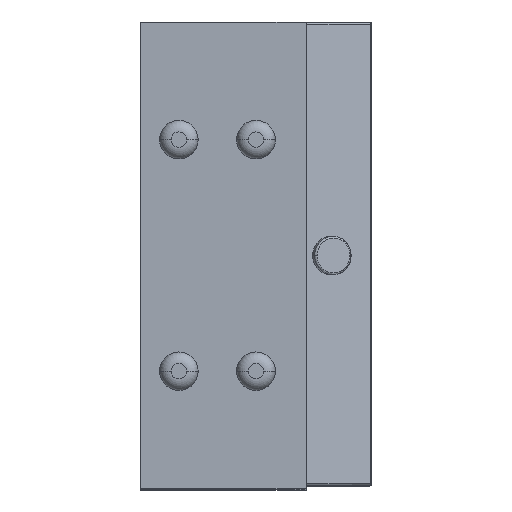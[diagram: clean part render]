
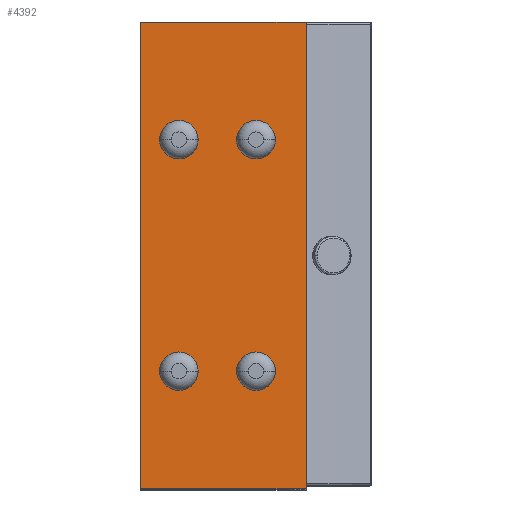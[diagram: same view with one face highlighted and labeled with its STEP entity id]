
A CAD part, top view. The second image highlights one B-rep face of the part: STEP entity #4392.
In plain terms, the highlighted planar face has unit normal (0, 0, 1).
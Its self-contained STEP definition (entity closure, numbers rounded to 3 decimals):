
#330 = VERTEX_POINT ( 'NONE', #13505 ) ;
#769 = VERTEX_POINT ( 'NONE', #14400 ) ;
#1227 = CARTESIAN_POINT ( 'NONE',  ( 5., -30., 77.5 ) ) ;
#1429 = EDGE_CURVE ( 'NONE', #24312, #14934, #27768, .T. ) ;
#1811 = VERTEX_POINT ( 'NONE', #33669 ) ;
#2116 = VERTEX_POINT ( 'NONE', #19441 ) ;
#2127 = LINE ( 'NONE', #22781, #17752 ) ;
#2188 = CARTESIAN_POINT ( 'NONE',  ( -15., 30., 77.5 ) ) ;
#2290 = VERTEX_POINT ( 'NONE', #14417 ) ;
#2324 = DIRECTION ( 'NONE',  ( 1., 0., 0. ) ) ;
#2940 = ORIENTED_EDGE ( 'NONE', *, *, #25139, .T. ) ;
#3398 = DIRECTION ( 'NONE',  ( 1., 0., 0. ) ) ;
#3588 = AXIS2_PLACEMENT_3D ( 'NONE', #34004, #20504, #12837 ) ;
#3596 = EDGE_LOOP ( 'NONE', ( #27484, #7817, #17566, #12763 ) ) ;
#3620 = CIRCLE ( 'NONE', #15371, 5. ) ;
#4392 = ADVANCED_FACE ( 'NONE', ( #24304, #6220, #20189, #27645, #33275 ), #24687, .T. ) ;
#4534 = CARTESIAN_POINT ( 'NONE',  ( -5., -30., 77.5 ) ) ;
#4631 = CARTESIAN_POINT ( 'NONE',  ( -20., 30., 77.5 ) ) ;
#5324 = CARTESIAN_POINT ( 'NONE',  ( -30., 60.5, 77.5 ) ) ;
#5463 = EDGE_CURVE ( 'NONE', #2116, #33609, #12341, .T. ) ;
#5643 = CARTESIAN_POINT ( 'NONE',  ( 13., -60.5, 77.5 ) ) ;
#6220 = FACE_BOUND ( 'NONE', #9408, .T. ) ;
#6770 = VECTOR ( 'NONE', #30182, 1000. ) ;
#7817 = ORIENTED_EDGE ( 'NONE', *, *, #32339, .F. ) ;
#7899 = ORIENTED_EDGE ( 'NONE', *, *, #28308, .T. ) ;
#8556 = CARTESIAN_POINT ( 'NONE',  ( -30., -60.5, 77.5 ) ) ;
#8615 = VECTOR ( 'NONE', #11586, 1000. ) ;
#9408 = EDGE_LOOP ( 'NONE', ( #29740, #26998 ) ) ;
#10359 = CARTESIAN_POINT ( 'NONE',  ( 0., 30., 77.5 ) ) ;
#10595 = AXIS2_PLACEMENT_3D ( 'NONE', #11240, #11687, #3398 ) ;
#11240 = CARTESIAN_POINT ( 'NONE',  ( -20., -30., 77.5 ) ) ;
#11586 = DIRECTION ( 'NONE',  ( 0., 1., 0. ) ) ;
#11600 = AXIS2_PLACEMENT_3D ( 'NONE', #23687, #26353, #13509 ) ;
#11687 = DIRECTION ( 'NONE',  ( 0., 0., -1. ) ) ;
#11842 = EDGE_LOOP ( 'NONE', ( #21414, #2940 ) ) ;
#11893 = CARTESIAN_POINT ( 'NONE',  ( -15., -30., 77.5 ) ) ;
#12341 = CIRCLE ( 'NONE', #29289, 5. ) ;
#12619 = EDGE_CURVE ( 'NONE', #769, #24000, #29398, .T. ) ;
#12763 = ORIENTED_EDGE ( 'NONE', *, *, #20199, .T. ) ;
#12837 = DIRECTION ( 'NONE',  ( 1., 0., 0. ) ) ;
#13505 = CARTESIAN_POINT ( 'NONE',  ( 5., 30., 77.5 ) ) ;
#13509 = DIRECTION ( 'NONE',  ( 1., 0., 0. ) ) ;
#13527 = VERTEX_POINT ( 'NONE', #5643 ) ;
#13668 = CARTESIAN_POINT ( 'NONE',  ( -20., -30., 77.5 ) ) ;
#14302 = AXIS2_PLACEMENT_3D ( 'NONE', #24921, #14497, #16777 ) ;
#14400 = CARTESIAN_POINT ( 'NONE',  ( -30., -60.5, 77.5 ) ) ;
#14417 = CARTESIAN_POINT ( 'NONE',  ( -5., 30., 77.5 ) ) ;
#14497 = DIRECTION ( 'NONE',  ( 0., 0., 1. ) ) ;
#14551 = VERTEX_POINT ( 'NONE', #4534 ) ;
#14934 = VERTEX_POINT ( 'NONE', #2188 ) ;
#15171 = CARTESIAN_POINT ( 'NONE',  ( -25., 30., 77.5 ) ) ;
#15371 = AXIS2_PLACEMENT_3D ( 'NONE', #23068, #28259, #17789 ) ;
#15427 = DIRECTION ( 'NONE',  ( 0., 0., -1. ) ) ;
#15985 = CARTESIAN_POINT ( 'NONE',  ( 13., -60.5, 77.5 ) ) ;
#16044 = DIRECTION ( 'NONE',  ( 0., 0., -1. ) ) ;
#16777 = DIRECTION ( 'NONE',  ( 1., 0., 0. ) ) ;
#16828 = EDGE_CURVE ( 'NONE', #13527, #1811, #28777, .T. ) ;
#16858 = CARTESIAN_POINT ( 'NONE',  ( 13., -60.5, 77.5 ) ) ;
#17566 = ORIENTED_EDGE ( 'NONE', *, *, #16828, .T. ) ;
#17752 = VECTOR ( 'NONE', #22677, 1000. ) ;
#17789 = DIRECTION ( 'NONE',  ( 1., 0., 0. ) ) ;
#17867 = EDGE_CURVE ( 'NONE', #14934, #24312, #3620, .T. ) ;
#18381 = DIRECTION ( 'NONE',  ( -1., 0., 0. ) ) ;
#18382 = DIRECTION ( 'NONE',  ( 0., 0., -1. ) ) ;
#18419 = AXIS2_PLACEMENT_3D ( 'NONE', #28649, #15427, #2324 ) ;
#18668 = EDGE_CURVE ( 'NONE', #30773, #14551, #30977, .T. ) ;
#19441 = CARTESIAN_POINT ( 'NONE',  ( -25., -30., 77.5 ) ) ;
#20189 = FACE_BOUND ( 'NONE', #31190, .T. ) ;
#20199 = EDGE_CURVE ( 'NONE', #1811, #24000, #2127, .T. ) ;
#20504 = DIRECTION ( 'NONE',  ( 0., 0., -1. ) ) ;
#20780 = ORIENTED_EDGE ( 'NONE', *, *, #24022, .T. ) ;
#20820 = DIRECTION ( 'NONE',  ( 1., 0., 0. ) ) ;
#20837 = EDGE_CURVE ( 'NONE', #2290, #330, #21401, .T. ) ;
#21305 = EDGE_LOOP ( 'NONE', ( #20780, #22079 ) ) ;
#21368 = LINE ( 'NONE', #15985, #25918 ) ;
#21401 = CIRCLE ( 'NONE', #23001, 5. ) ;
#21414 = ORIENTED_EDGE ( 'NONE', *, *, #18668, .T. ) ;
#22079 = ORIENTED_EDGE ( 'NONE', *, *, #20837, .T. ) ;
#22268 = ORIENTED_EDGE ( 'NONE', *, *, #5463, .T. ) ;
#22677 = DIRECTION ( 'NONE',  ( -1., 0., 0. ) ) ;
#22781 = CARTESIAN_POINT ( 'NONE',  ( 13., 60.5, 77.5 ) ) ;
#23001 = AXIS2_PLACEMENT_3D ( 'NONE', #10359, #18382, #33956 ) ;
#23068 = CARTESIAN_POINT ( 'NONE',  ( -20., 30., 77.5 ) ) ;
#23687 = CARTESIAN_POINT ( 'NONE',  ( 0., 30., 77.5 ) ) ;
#24000 = VERTEX_POINT ( 'NONE', #5324 ) ;
#24022 = EDGE_CURVE ( 'NONE', #330, #2290, #24102, .T. ) ;
#24102 = CIRCLE ( 'NONE', #11600, 5. ) ;
#24304 = FACE_BOUND ( 'NONE', #11842, .T. ) ;
#24312 = VERTEX_POINT ( 'NONE', #15171 ) ;
#24687 = PLANE ( 'NONE',  #14302 ) ;
#24921 = CARTESIAN_POINT ( 'NONE',  ( 13., -60.5, 77.5 ) ) ;
#25139 = EDGE_CURVE ( 'NONE', #14551, #30773, #29425, .T. ) ;
#25658 = DIRECTION ( 'NONE',  ( 0., 0., -1. ) ) ;
#25918 = VECTOR ( 'NONE', #18381, 1000. ) ;
#26353 = DIRECTION ( 'NONE',  ( 0., 0., -1. ) ) ;
#26998 = ORIENTED_EDGE ( 'NONE', *, *, #1429, .T. ) ;
#27484 = ORIENTED_EDGE ( 'NONE', *, *, #12619, .F. ) ;
#27645 = FACE_BOUND ( 'NONE', #21305, .T. ) ;
#27768 = CIRCLE ( 'NONE', #30739, 5. ) ;
#28259 = DIRECTION ( 'NONE',  ( 0., 0., -1. ) ) ;
#28308 = EDGE_CURVE ( 'NONE', #33609, #2116, #32227, .T. ) ;
#28649 = CARTESIAN_POINT ( 'NONE',  ( 0., -30., 77.5 ) ) ;
#28777 = LINE ( 'NONE', #16858, #8615 ) ;
#29165 = DIRECTION ( 'NONE',  ( 1., 0., 0. ) ) ;
#29289 = AXIS2_PLACEMENT_3D ( 'NONE', #13668, #16044, #29165 ) ;
#29398 = LINE ( 'NONE', #8556, #6770 ) ;
#29425 = CIRCLE ( 'NONE', #18419, 5. ) ;
#29740 = ORIENTED_EDGE ( 'NONE', *, *, #17867, .T. ) ;
#30182 = DIRECTION ( 'NONE',  ( 0., 1., 0. ) ) ;
#30739 = AXIS2_PLACEMENT_3D ( 'NONE', #4631, #25658, #20820 ) ;
#30773 = VERTEX_POINT ( 'NONE', #1227 ) ;
#30977 = CIRCLE ( 'NONE', #3588, 5. ) ;
#31190 = EDGE_LOOP ( 'NONE', ( #7899, #22268 ) ) ;
#32227 = CIRCLE ( 'NONE', #10595, 5. ) ;
#32339 = EDGE_CURVE ( 'NONE', #13527, #769, #21368, .T. ) ;
#33275 = FACE_OUTER_BOUND ( 'NONE', #3596, .T. ) ;
#33609 = VERTEX_POINT ( 'NONE', #11893 ) ;
#33669 = CARTESIAN_POINT ( 'NONE',  ( 13., 60.5, 77.5 ) ) ;
#33956 = DIRECTION ( 'NONE',  ( 1., 0., 0. ) ) ;
#34004 = CARTESIAN_POINT ( 'NONE',  ( 0., -30., 77.5 ) ) ;
